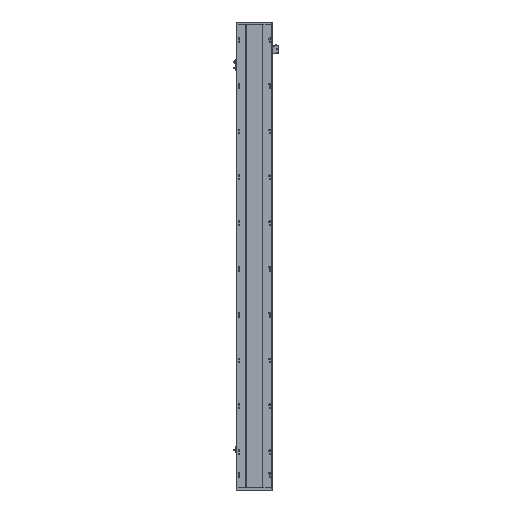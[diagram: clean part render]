
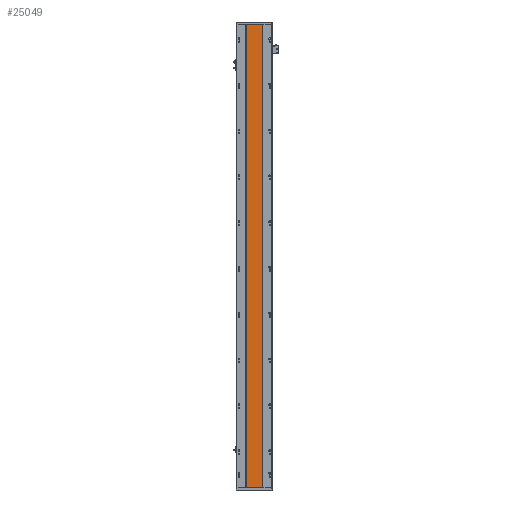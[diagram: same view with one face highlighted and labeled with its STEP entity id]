
A CAD part, front view. The second image highlights one B-rep face of the part: STEP entity #25049.
In plain terms, the highlighted planar face has unit normal (0, -1, 0).
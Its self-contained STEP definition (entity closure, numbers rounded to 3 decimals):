
#148 = VECTOR ( 'NONE', #22552, 1000. ) ;
#235 = CARTESIAN_POINT ( 'NONE',  ( 205.288, 16.9, 2188. ) ) ;
#3023 = CARTESIAN_POINT ( 'NONE',  ( 129.288, 16.9, 2188. ) ) ;
#3204 = DIRECTION ( 'NONE',  ( -1., 0., 0. ) ) ;
#5030 = DIRECTION ( 'NONE',  ( 1., 0., 0. ) ) ;
#5410 = CARTESIAN_POINT ( 'NONE',  ( 129.288, 16.9, 0. ) ) ;
#5517 = DIRECTION ( 'NONE',  ( 1., 0., 0. ) ) ;
#6581 = CARTESIAN_POINT ( 'NONE',  ( 205.288, 16.9, 2188. ) ) ;
#8689 = LINE ( 'NONE', #3023, #148 ) ;
#9503 = EDGE_CURVE ( 'NONE', #21173, #28444, #17942, .T. ) ;
#9810 = PLANE ( 'NONE',  #31905 ) ;
#10568 = FACE_OUTER_BOUND ( 'NONE', #38009, .T. ) ;
#10895 = LINE ( 'NONE', #235, #14420 ) ;
#14420 = VECTOR ( 'NONE', #15962, 1000. ) ;
#15962 = DIRECTION ( 'NONE',  ( 0., 0., -1. ) ) ;
#16209 = EDGE_CURVE ( 'NONE', #27484, #18012, #28750, .T. ) ;
#17942 = LINE ( 'NONE', #27719, #22459 ) ;
#18012 = VERTEX_POINT ( 'NONE', #32657 ) ;
#21173 = VERTEX_POINT ( 'NONE', #31832 ) ;
#21362 = ORIENTED_EDGE ( 'NONE', *, *, #41301, .T. ) ;
#21665 = CARTESIAN_POINT ( 'NONE',  ( 205.288, 16.9, 0. ) ) ;
#22459 = VECTOR ( 'NONE', #5030, 1000. ) ;
#22552 = DIRECTION ( 'NONE',  ( 0., 0., -1. ) ) ;
#25049 = ADVANCED_FACE ( 'NONE', ( #10568 ), #9810, .F. ) ;
#25800 = CARTESIAN_POINT ( 'NONE',  ( 205.288, 16.9, 2188. ) ) ;
#27484 = VERTEX_POINT ( 'NONE', #5410 ) ;
#27719 = CARTESIAN_POINT ( 'NONE',  ( 129.288, 16.9, 2188. ) ) ;
#27758 = ORIENTED_EDGE ( 'NONE', *, *, #16209, .T. ) ;
#28444 = VERTEX_POINT ( 'NONE', #6581 ) ;
#28750 = LINE ( 'NONE', #21665, #30781 ) ;
#28864 = DIRECTION ( 'NONE',  ( 0., 1., 0. ) ) ;
#30781 = VECTOR ( 'NONE', #5517, 1000. ) ;
#31832 = CARTESIAN_POINT ( 'NONE',  ( 129.288, 16.9, 2188. ) ) ;
#31905 = AXIS2_PLACEMENT_3D ( 'NONE', #25800, #28864, #3204 ) ;
#32657 = CARTESIAN_POINT ( 'NONE',  ( 205.288, 16.9, 0. ) ) ;
#34628 = EDGE_CURVE ( 'NONE', #28444, #18012, #10895, .T. ) ;
#37399 = ORIENTED_EDGE ( 'NONE', *, *, #34628, .F. ) ;
#38009 = EDGE_LOOP ( 'NONE', ( #27758, #37399, #40120, #21362 ) ) ;
#40120 = ORIENTED_EDGE ( 'NONE', *, *, #9503, .F. ) ;
#41301 = EDGE_CURVE ( 'NONE', #21173, #27484, #8689, .T. ) ;
